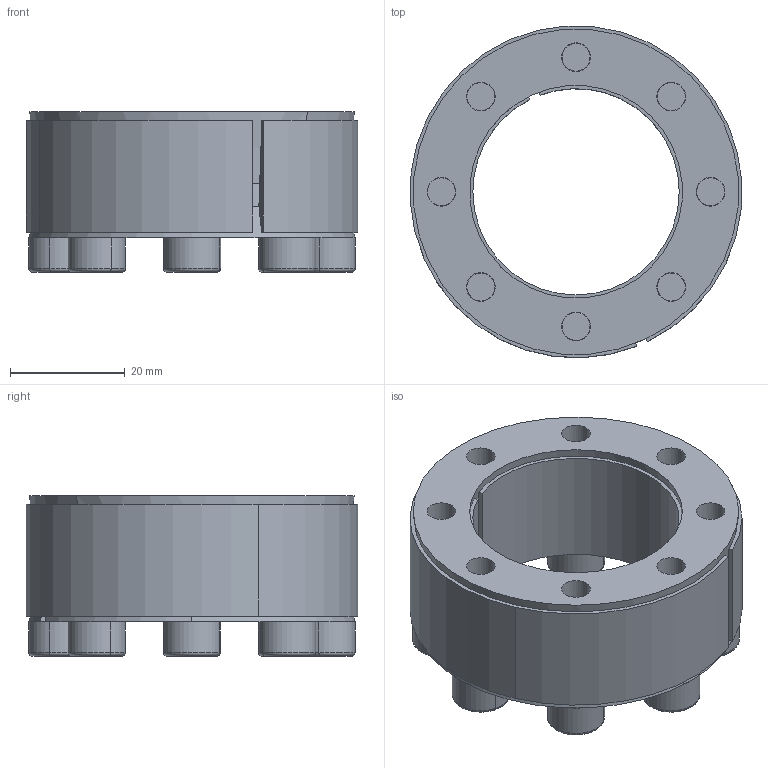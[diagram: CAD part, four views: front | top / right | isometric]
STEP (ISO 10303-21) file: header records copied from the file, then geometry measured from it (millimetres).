
FILE_DESCRIPTION (( 'STEP AP214' ), '1' );
FILE_NAME ('CONEX-L-36x58.step', '2013-04-06T13:22:41', ( 'Pc' ), ( '' ), 'SwSTEP 2.0', 'SolidWorks 2013', '' );
FILE_SCHEMA (( 'AUTOMOTIVE_DESIGN' ));
Length unit declared in the file: millimetre
Products named in the file (1): CONEX-L-36x58
Bounding box: 57.85 x 57.9 x 27.97 mm (x, y, z)
Volume: 33379.1 mm3; surface area: 28458.3 mm2
Topology: 11 solids, 11 shells, 289 faces, 663 edges, 396 vertices
Faces by surface type: plane 131, cylinder 78, cone 48, torus 32
Entity records: 11433 total; most frequent: DIRECTION 1532, CARTESIAN_POINT 1369, ORIENTED_EDGE 1294, EDGE_CURVE 647, AXIS2_PLACEMENT_3D 603, VERTEX_POINT 396, EDGE_LOOP 347, VECTOR 326
